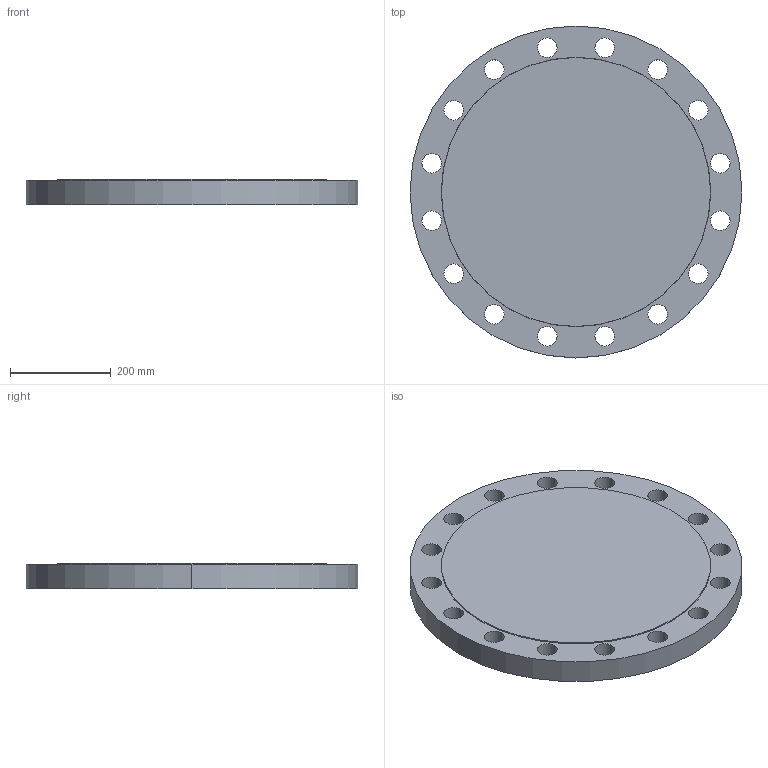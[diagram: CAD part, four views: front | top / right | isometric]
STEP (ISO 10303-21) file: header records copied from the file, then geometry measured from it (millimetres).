
FILE_DESCRIPTION (( 'STEP AP214' ), '1' );
FILE_NAME ('PN40 DN400 Type 05 - Type B Face.STEP', '2019-01-05T23:21:49', ( '' ), ( '' ), 'SwSTEP 2.0', 'SolidWorks 2019', '' );
FILE_SCHEMA (( 'AUTOMOTIVE_DESIGN' ));
Length unit declared in the file: millimetre
Products named in the file (1): PN40 DN400 Type 05 - Type B Face
Bounding box: 660 x 660 x 50 mm (x, y, z)
Volume: 15954481.7 mm3; surface area: 842457.1 mm2
Topology: 1 solids, 1 shells, 39 faces, 108 edges, 72 vertices
Faces by surface type: cylinder 34, plane 3, cone 2
Entity records: 1392 total; most frequent: DIRECTION 260, CARTESIAN_POINT 220, ORIENTED_EDGE 216, AXIS2_PLACEMENT_3D 112, EDGE_CURVE 108, CIRCLE 72, VERTEX_POINT 72, EDGE_LOOP 72
